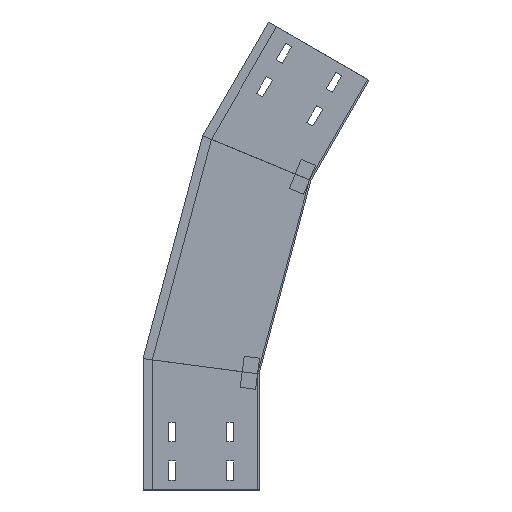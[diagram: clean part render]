
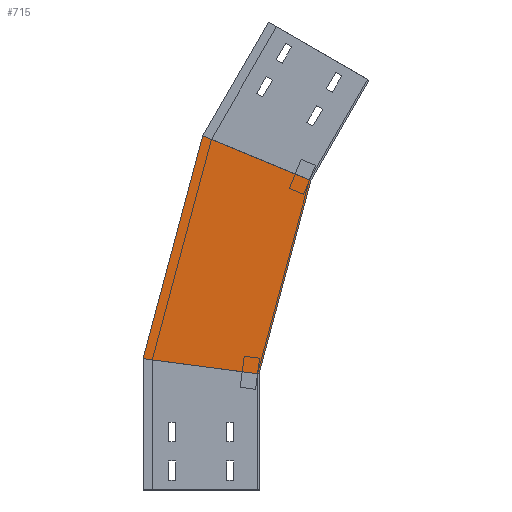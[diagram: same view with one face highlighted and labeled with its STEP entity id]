
A CAD part, left-side view. The second image highlights one B-rep face of the part: STEP entity #715.
In plain terms, the highlighted planar face has unit normal (-1, 0, 0) as drawn and (1, 0, 0) by its records, which use the part's own axes.
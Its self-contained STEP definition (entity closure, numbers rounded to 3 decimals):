
#8 = CARTESIAN_POINT ( 'NONE',  ( 0., 150., 169.748 ) ) ;
#76 = ORIENTED_EDGE ( 'NONE', *, *, #467, .F. ) ;
#130 = CARTESIAN_POINT ( 'NONE',  ( 0., 150.537, 167.744 ) ) ;
#197 = ORIENTED_EDGE ( 'NONE', *, *, #1775, .T. ) ;
#208 = DIRECTION ( 'NONE',  ( 0., -0.259, 0.966 ) ) ;
#254 = LINE ( 'NONE', #885, #1280 ) ;
#279 = VECTOR ( 'NONE', #1014, 1000. ) ;
#377 = EDGE_CURVE ( 'NONE', #1456, #1594, #1446, .T. ) ;
#398 = ORIENTED_EDGE ( 'NONE', *, *, #827, .T. ) ;
#400 = ORIENTED_EDGE ( 'NONE', *, *, #377, .F. ) ;
#466 = CARTESIAN_POINT ( 'NONE',  ( 0., 72.744, 458.073 ) ) ;
#467 = EDGE_CURVE ( 'NONE', #1594, #1097, #684, .T. ) ;
#512 = CARTESIAN_POINT ( 'NONE',  ( 0., -19.411, 147.444 ) ) ;
#535 = DIRECTION ( 'NONE',  ( 0., -0.924, -0.383 ) ) ;
#543 = PLANE ( 'NONE',  #994 ) ;
#684 = LINE ( 'NONE', #1330, #1053 ) ;
#697 = DIRECTION ( 'NONE',  ( 0., 0., -1. ) ) ;
#715 = ADVANCED_FACE ( 'NONE', ( #1812 ), #543, .T. ) ;
#827 = EDGE_CURVE ( 'NONE', #1531, #1097, #254, .T. ) ;
#867 = CARTESIAN_POINT ( 'NONE',  ( 0., 5.648, 128.921 ) ) ;
#885 = CARTESIAN_POINT ( 'NONE',  ( 0., -100.899, 386.148 ) ) ;
#976 = CARTESIAN_POINT ( 'NONE',  ( 0., -67.034, 400.175 ) ) ;
#994 = AXIS2_PLACEMENT_3D ( 'NONE', #867, #1513, #697 ) ;
#1014 = DIRECTION ( 'NONE',  ( 0., -0.991, -0.131 ) ) ;
#1053 = VECTOR ( 'NONE', #208, 1000. ) ;
#1097 = VERTEX_POINT ( 'NONE', #976 ) ;
#1252 = DIRECTION ( 'NONE',  ( 0., -0.259, 0.966 ) ) ;
#1280 = VECTOR ( 'NONE', #535, 1000. ) ;
#1281 = EDGE_LOOP ( 'NONE', ( #197, #398, #76, #400 ) ) ;
#1316 = VECTOR ( 'NONE', #1252, 1000. ) ;
#1330 = CARTESIAN_POINT ( 'NONE',  ( 0., 5.648, 128.921 ) ) ;
#1446 = LINE ( 'NONE', #512, #279 ) ;
#1456 = VERTEX_POINT ( 'NONE', #8 ) ;
#1513 = DIRECTION ( 'NONE',  ( 1., 0., 0. ) ) ;
#1531 = VERTEX_POINT ( 'NONE', #466 ) ;
#1594 = VERTEX_POINT ( 'NONE', #1966 ) ;
#1775 = EDGE_CURVE ( 'NONE', #1456, #1531, #1824, .T. ) ;
#1812 = FACE_OUTER_BOUND ( 'NONE', #1281, .T. ) ;
#1824 = LINE ( 'NONE', #130, #1316 ) ;
#1966 = CARTESIAN_POINT ( 'NONE',  ( 0., 0., 150. ) ) ;
